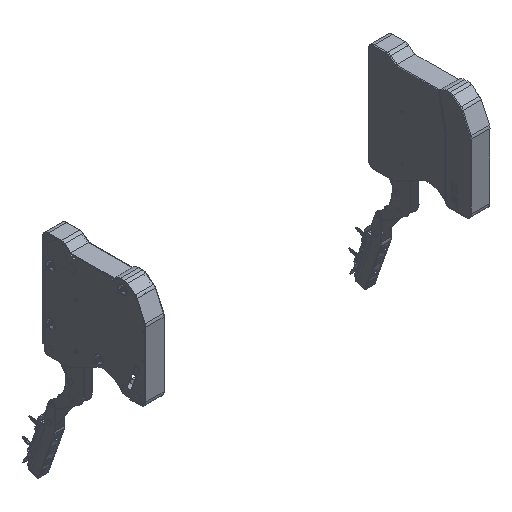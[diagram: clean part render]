
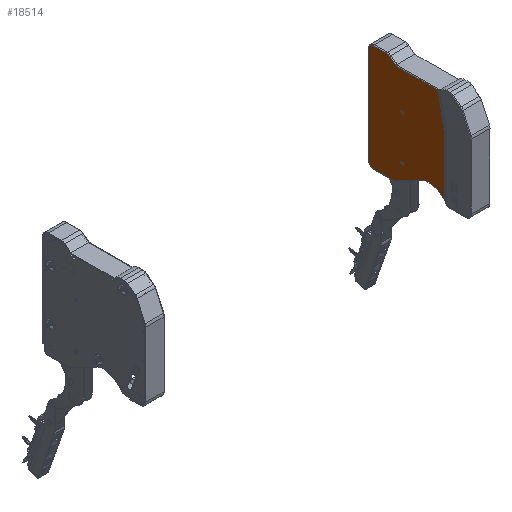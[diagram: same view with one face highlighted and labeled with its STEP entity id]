
A CAD part, isometric view. The second image highlights one B-rep face of the part: STEP entity #18514.
In plain terms, the highlighted planar face has unit normal (-1, 0, 0).
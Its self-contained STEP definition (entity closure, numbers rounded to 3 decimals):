
#1307=PLANE('',#20384);
#2906=LINE('',#35121,#4577);
#2908=LINE('',#35152,#4579);
#2910=LINE('',#35164,#4581);
#2912=LINE('',#35176,#4583);
#2914=LINE('',#35188,#4585);
#2915=LINE('',#35196,#4586);
#2937=LINE('',#35248,#4608);
#2951=LINE('',#35333,#4622);
#4577=VECTOR('',#25499,10.);
#4579=VECTOR('',#25523,10.);
#4581=VECTOR('',#25537,10.);
#4583=VECTOR('',#25551,10.);
#4585=VECTOR('',#25565,10.);
#4586=VECTOR('',#25576,10.);
#4608=VECTOR('',#25634,10.);
#4622=VECTOR('',#25714,10.);
#5937=FACE_OUTER_BOUND('',#7189,.T.);
#7189=EDGE_LOOP('',(#17250,#17251,#17252,#17253,#17254,#17255,#17256,#17257,
#17258,#17259,#17260,#17261,#17262,#17263));
#7896=CIRCLE('',#20299,30.413);
#7901=CIRCLE('',#20305,19.705);
#7905=CIRCLE('',#20311,11.);
#7909=CIRCLE('',#20317,7.);
#7913=CIRCLE('',#20323,7.);
#7917=CIRCLE('',#20329,7.);
#9603=VERTEX_POINT('',#35118);
#9604=VERTEX_POINT('',#35120);
#9605=VERTEX_POINT('',#35124);
#9607=VERTEX_POINT('',#35136);
#9610=VERTEX_POINT('',#35143);
#9612=VERTEX_POINT('',#35149);
#9614=VERTEX_POINT('',#35155);
#9616=VERTEX_POINT('',#35161);
#9618=VERTEX_POINT('',#35167);
#9620=VERTEX_POINT('',#35173);
#9622=VERTEX_POINT('',#35179);
#9624=VERTEX_POINT('',#35185);
#9626=VERTEX_POINT('',#35191);
#9638=VERTEX_POINT('',#35246);
#12112=EDGE_CURVE('',#9604,#9603,#2906,.T.);
#12115=EDGE_CURVE('',#9607,#9605,#7896,.T.);
#12120=EDGE_CURVE('',#9610,#9607,#7901,.T.);
#12123=EDGE_CURVE('',#9612,#9610,#2908,.T.);
#12126=EDGE_CURVE('',#9614,#9612,#7905,.T.);
#12129=EDGE_CURVE('',#9616,#9614,#2910,.T.);
#12132=EDGE_CURVE('',#9618,#9616,#7909,.T.);
#12135=EDGE_CURVE('',#9620,#9618,#2912,.T.);
#12138=EDGE_CURVE('',#9622,#9620,#7913,.T.);
#12141=EDGE_CURVE('',#9624,#9622,#2914,.T.);
#12144=EDGE_CURVE('',#9626,#9624,#7917,.T.);
#12145=EDGE_CURVE('',#9603,#9626,#2915,.T.);
#12172=EDGE_CURVE('',#9638,#9605,#2937,.T.);
#12207=EDGE_CURVE('',#9604,#9638,#2951,.T.);
#17250=ORIENTED_EDGE('',*,*,#12112,.T.);
#17251=ORIENTED_EDGE('',*,*,#12145,.T.);
#17252=ORIENTED_EDGE('',*,*,#12144,.T.);
#17253=ORIENTED_EDGE('',*,*,#12141,.T.);
#17254=ORIENTED_EDGE('',*,*,#12138,.T.);
#17255=ORIENTED_EDGE('',*,*,#12135,.T.);
#17256=ORIENTED_EDGE('',*,*,#12132,.T.);
#17257=ORIENTED_EDGE('',*,*,#12129,.T.);
#17258=ORIENTED_EDGE('',*,*,#12126,.T.);
#17259=ORIENTED_EDGE('',*,*,#12123,.T.);
#17260=ORIENTED_EDGE('',*,*,#12120,.T.);
#17261=ORIENTED_EDGE('',*,*,#12115,.T.);
#17262=ORIENTED_EDGE('',*,*,#12172,.F.);
#17263=ORIENTED_EDGE('',*,*,#12207,.F.);
#18514=ADVANCED_FACE('',(#5937),#1307,.F.);
#20299=AXIS2_PLACEMENT_3D('',#35137,#25504,#25505);
#20305=AXIS2_PLACEMENT_3D('',#35146,#25516,#25517);
#20311=AXIS2_PLACEMENT_3D('',#35158,#25530,#25531);
#20317=AXIS2_PLACEMENT_3D('',#35170,#25544,#25545);
#20323=AXIS2_PLACEMENT_3D('',#35182,#25558,#25559);
#20329=AXIS2_PLACEMENT_3D('',#35194,#25572,#25573);
#20384=AXIS2_PLACEMENT_3D('',#35336,#25719,#25720);
#25499=DIRECTION('',(0.,1.,0.));
#25504=DIRECTION('center_axis',(1.,0.,0.));
#25505=DIRECTION('ref_axis',(0.,-0.465,0.885));
#25516=DIRECTION('center_axis',(1.,0.,0.));
#25517=DIRECTION('ref_axis',(0.,0.208,0.978));
#25523=DIRECTION('',(0.,-0.888,0.461));
#25530=DIRECTION('center_axis',(-1.,0.,0.));
#25531=DIRECTION('ref_axis',(0.,-0.237,-0.971));
#25537=DIRECTION('',(0.,-1.,0.));
#25544=DIRECTION('center_axis',(-1.,0.,0.));
#25545=DIRECTION('ref_axis',(0.,0.707,-0.707));
#25551=DIRECTION('',(0.,0.,-1.));
#25558=DIRECTION('center_axis',(-1.,0.,0.));
#25559=DIRECTION('ref_axis',(0.,0.707,0.707));
#25565=DIRECTION('',(0.,1.,0.));
#25572=DIRECTION('center_axis',(-1.,0.,0.));
#25573=DIRECTION('ref_axis',(0.,-0.332,0.943));
#25576=DIRECTION('',(0.,0.78,0.626));
#25634=DIRECTION('',(0.,0.,-1.));
#25714=DIRECTION('',(0.,-0.183,-0.983));
#25719=DIRECTION('center_axis',(1.,0.,0.));
#25720=DIRECTION('ref_axis',(0.,0.,-1.));
#35118=CARTESIAN_POINT('',(-14.5,-85.166,-100.886));
#35120=CARTESIAN_POINT('',(-14.5,-145.76,-100.886));
#35121=CARTESIAN_POINT('',(-14.5,-131.294,-100.886));
#35124=CARTESIAN_POINT('',(-14.5,-154.571,-232.056));
#35136=CARTESIAN_POINT('',(-14.5,-133.179,-221.385));
#35137=CARTESIAN_POINT('Origin',(-14.5,-131.391,-251.745));
#35143=CARTESIAN_POINT('',(-14.5,-122.942,-223.566));
#35146=CARTESIAN_POINT('Origin',(-14.5,-132.021,-241.056));
#35149=CARTESIAN_POINT('',(-14.5,-85.538,-242.981));
#35152=CARTESIAN_POINT('',(-14.5,-112.323,-229.078));
#35155=CARTESIAN_POINT('',(-14.5,-80.471,-244.218));
#35158=CARTESIAN_POINT('Origin',(-14.5,-80.471,-233.218));
#35161=CARTESIAN_POINT('',(-14.5,-53.301,-244.218));
#35164=CARTESIAN_POINT('',(-14.5,-84.214,-244.218));
#35167=CARTESIAN_POINT('',(-14.5,-46.301,-237.218));
#35170=CARTESIAN_POINT('Origin',(-14.5,-53.301,-237.218));
#35173=CARTESIAN_POINT('',(-14.5,-46.301,-99.218));
#35176=CARTESIAN_POINT('',(-14.5,-46.301,-134.098));
#35179=CARTESIAN_POINT('',(-14.5,-53.301,-92.218));
#35182=CARTESIAN_POINT('Origin',(-14.5,-53.301,-99.218));
#35185=CARTESIAN_POINT('',(-14.5,-71.904,-92.218));
#35188=CARTESIAN_POINT('',(-14.5,-93.516,-92.218));
#35191=CARTESIAN_POINT('',(-14.5,-76.285,-93.758));
#35194=CARTESIAN_POINT('Origin',(-14.5,-71.904,-99.218));
#35196=CARTESIAN_POINT('',(-14.5,-110.761,-121.425));
#35246=CARTESIAN_POINT('',(-14.5,-154.571,-148.169));
#35248=CARTESIAN_POINT('',(-14.5,-154.571,-201.942));
#35333=CARTESIAN_POINT('',(-14.5,-151.411,-131.214));
#35336=CARTESIAN_POINT('Origin',(-14.5,-115.128,-168.978));
